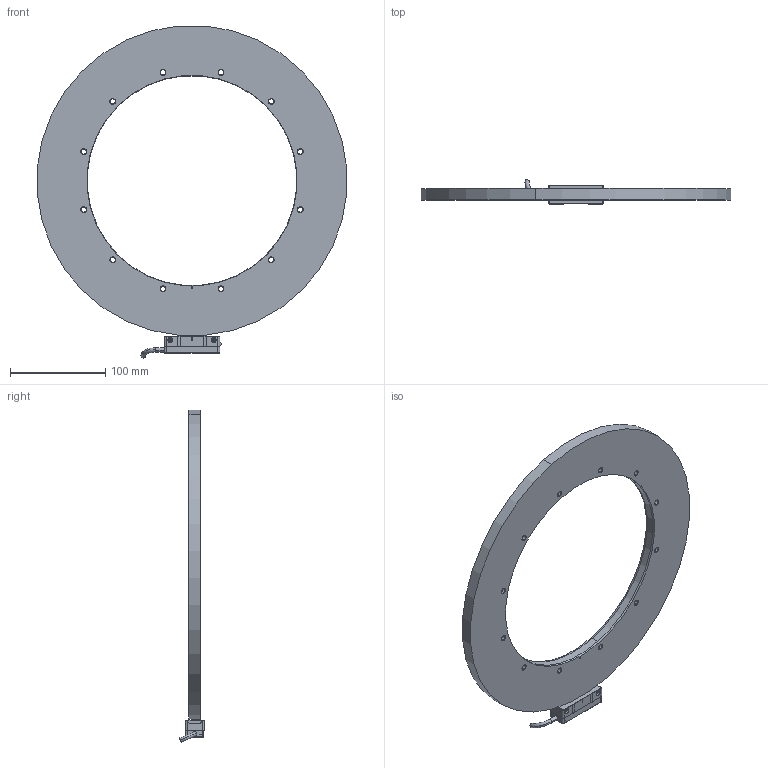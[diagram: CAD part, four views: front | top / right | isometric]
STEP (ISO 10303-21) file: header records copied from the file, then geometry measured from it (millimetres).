
FILE_DESCRIPTION (( 'STEP AP214' ), '1' );
FILE_NAME ('DHRx_SAR325_exposed.STEP', '2024-02-02T13:57:54', ( '' ), ( '' ), 'SwSTEP 2.0', 'SolidWorks 2022', '' );
FILE_SCHEMA (( 'AUTOMOTIVE_DESIGN' ));
Length unit declared in the file: millimetre
Products named in the file (1): DHRx_SAR325_exposed
Bounding box: 324.26 x 25.55 x 348.13 mm (x, y, z)
Volume: 554081.9 mm3; surface area: 119804.8 mm2
Topology: 2 solids, 2 shells, 2181 faces, 5905 edges, 3887 vertices
Faces by surface type: plane 1731, bspline 186, cylinder 172, cone 72, torus 18, sphere 2
Entity records: 99223 total; most frequent: CARTESIAN_POINT 21096, ORIENTED_EDGE 11780, DIRECTION 9999, EDGE_CURVE 5890, VECTOR 5021, LINE 5021, VERTEX_POINT 3886, AXIS2_PLACEMENT_3D 2489
